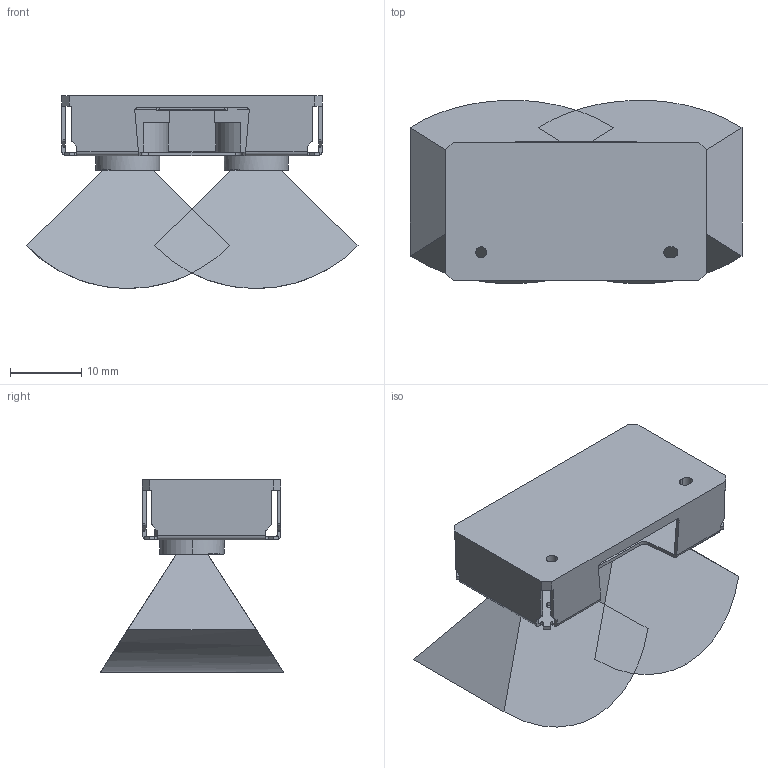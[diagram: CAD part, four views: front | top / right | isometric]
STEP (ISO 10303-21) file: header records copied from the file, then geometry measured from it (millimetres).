
FILE_DESCRIPTION((''),'2;1');
FILE_NAME('D405_EXTERNAL_ASM','2021-06-25T10:40:54',('wkho'),('INTEL'),'CREO PARAMETRIC BY PTC INC, 2020074','CREO PARAMETRIC BY PTC INC, 2020074','');
FILE_SCHEMA(('CONFIG_CONTROL_DESIGN'));
Products named in the file (3): D405_MODULE_EXTERNAL_SW0001; FOV_D405; D405_EXTERNAL_ASM
Assembly tree (3 placements, depth 2):
  D405_EXTERNAL_ASM
    D405_MODULE_EXTERNAL_SW0001
    FOV_D405  x2
Bounding box: 46.58 x 25.73 x 27.07 mm (x, y, z)
Volume: 12980.5 mm3; surface area: 7902.6 mm2
Topology: 3 solids, 3 shells, 1667 faces, 4539 edges, 2976 vertices
Faces by surface type: plane 1341, extrusion 191, cylinder 97, cone 24, torus 4, revolution 4, sphere 4, bspline 2
Entity records: 65345 total; most frequent: CARTESIAN_POINT 23985, ORIENTED_EDGE 9032, DIRECTION 7421, EDGE_CURVE 4516, VECTOR 4051, LINE 3860, VERTEX_POINT 2966, EDGE_LOOP 1786
